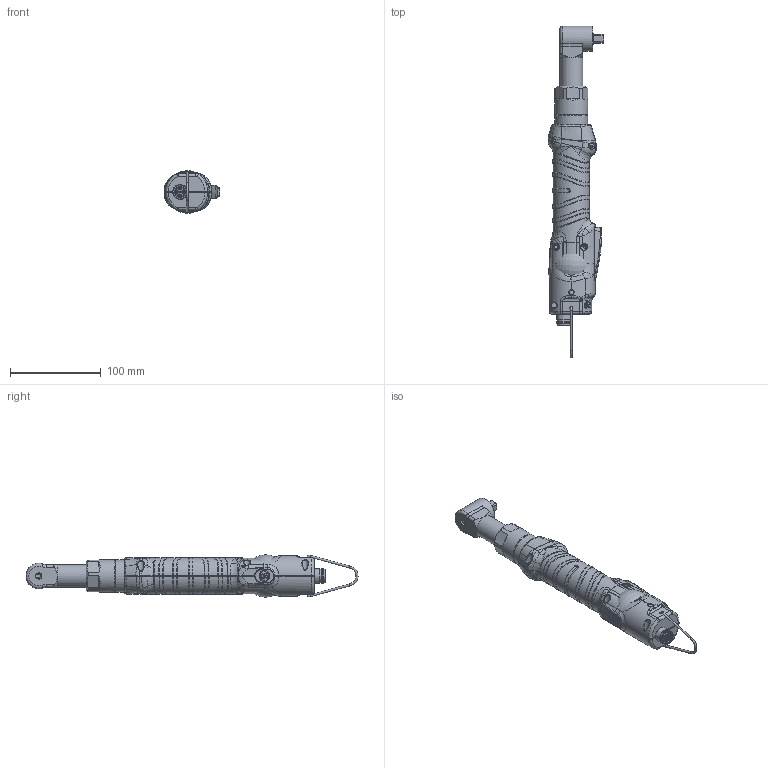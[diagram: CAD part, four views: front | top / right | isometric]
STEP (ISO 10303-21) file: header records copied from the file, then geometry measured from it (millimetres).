
FILE_DESCRIPTION (( 'STEP AP214' ), '1' );
FILE_NAME ('135015-A-ESD KDS-PL15ANG QUADRO 3-8 14NM.STEP', '2023-07-31T12:02:44', ( '' ), ( '' ), 'SwSTEP 2.0', 'SolidWorks 2022', '' );
FILE_SCHEMA (( 'AUTOMOTIVE_DESIGN' ));
Length unit declared in the file: millimetre
Products named in the file (1): 135015-A-ESD KDS-PL15ANG   QUADRO 3-8  14NM
Bounding box: 61.29 x 365.24 x 46.63 mm (x, y, z)
Surface area: 65369.9 mm2 (no closed solid volume)
Topology: 0 solids, 46 shells, 771 faces, 2624 edges, 1840 vertices
Faces by surface type: bspline 401, cylinder 144, plane 118, cone 85, torus 22, sphere 1
Full cylindrical faces by diameter (mm): 1 x9, 1.4 x1, 2.2 x1, 7 x1, 11.8 x2, 12 x2, 14.85 x2, 16 x2, 24.1 x1, 25 x1, 25.2 x1, 25.5 x1, 28 x1, 34.5 x1, 36 x2
Entity records: 69983 total; most frequent: CARTESIAN_POINT 43770, ORIENTED_EDGE 4053, EDGE_CURVE 2523, DIRECTION 2356, VERTEX_POINT 1817, B_SPLINE_CURVE_WITH_KNOTS 1337, AXIS2_PLACEMENT_3D 901, EDGE_LOOP 897
